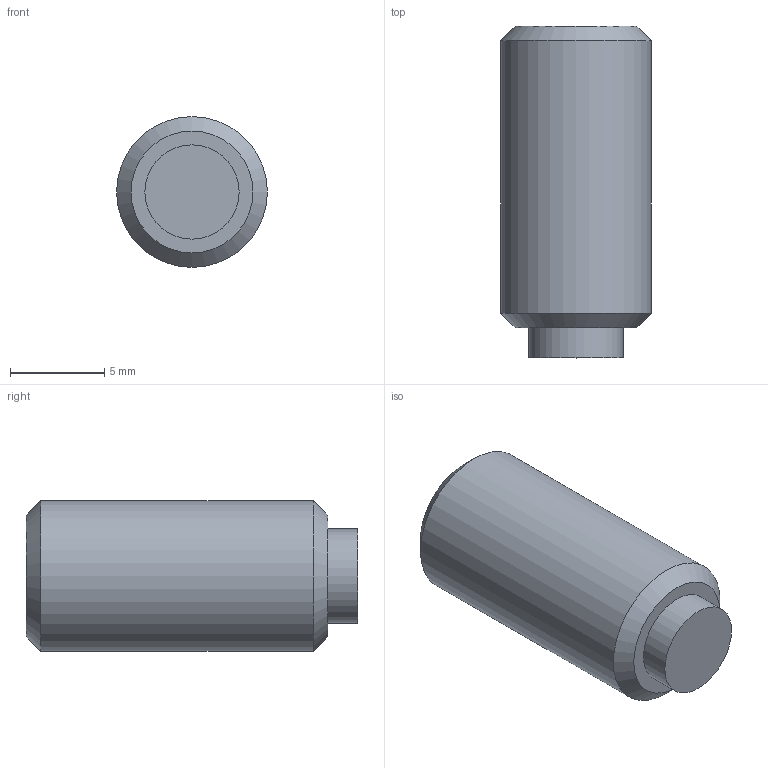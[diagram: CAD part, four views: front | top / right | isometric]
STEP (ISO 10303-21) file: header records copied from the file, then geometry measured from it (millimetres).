
FILE_DESCRIPTION( ( 'STEP AP203' ), '1' );
FILE_NAME( 'C:/Temp/Ganter_Step_05_03_2020/data/3_2/gn913_3/Grub screw GN 913.3-M8-16-KU.stp', '2020-03-13T05:35:37', ( 'License CC BY-ND 4.0' ), ( 'CADENAS' ), ' ', 'PARTsolutions', ' ' );
FILE_SCHEMA( ( 'CONFIG_CONTROL_DESIGN' ) );
Length unit declared in the file: millimetre
Products named in the file (1): _Grub screw GN 913.3-M8-16-KU
Bounding box: 8 x 17.6 x 8 mm (x, y, z)
Volume: 752.5 mm3; surface area: 573 mm2
Topology: 1 solids, 1 shells, 14 faces, 28 edges, 18 vertices
Faces by surface type: plane 10, cylinder 2, cone 2
Full cylindrical faces by diameter (mm): 5 x1, 8 x1
Entity records: 386 total; most frequent: DIRECTION 60, CARTESIAN_POINT 57, ORIENTED_EDGE 48, EDGE_CURVE 24, AXIS2_PLACEMENT_3D 21, EDGE_LOOP 20, VERTEX_POINT 18, LINE 18
